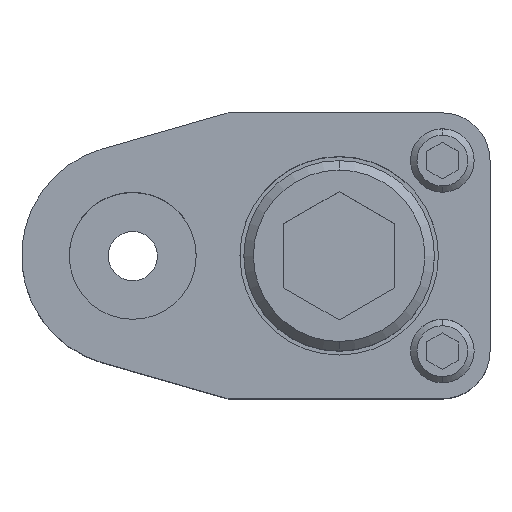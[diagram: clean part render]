
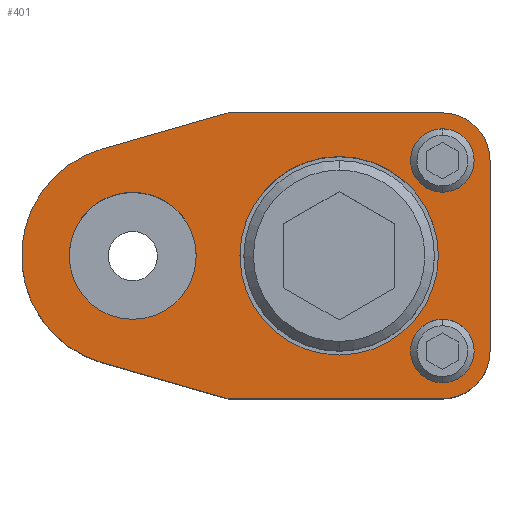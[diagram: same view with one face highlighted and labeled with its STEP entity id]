
A CAD part, top view. The second image highlights one B-rep face of the part: STEP entity #401.
In plain terms, the highlighted planar face has unit normal (0, 0, 1).
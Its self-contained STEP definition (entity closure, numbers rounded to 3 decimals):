
#191=FACE_BOUND('',#703,.T.);
#192=FACE_BOUND('',#704,.T.);
#193=FACE_BOUND('',#705,.T.);
#194=FACE_BOUND('',#706,.T.);
#195=FACE_BOUND('',#707,.T.);
#247=CIRCLE('',#2239,6.);
#249=CIRCLE('',#2244,14.);
#252=CIRCLE('',#2250,6.);
#254=CIRCLE('',#2253,4.);
#256=CIRCLE('',#2256,4.);
#258=CIRCLE('',#2259,4.);
#260=CIRCLE('',#2262,4.);
#265=CIRCLE('',#2270,12.5);
#266=CIRCLE('',#2271,12.5);
#267=CIRCLE('',#2272,8.);
#268=CIRCLE('',#2273,8.);
#401=ADVANCED_FACE('',(#191,#192,#193,#194,#195),#510,.T.);
#510=PLANE('',#2274);
#703=EDGE_LOOP('',(#999,#1000,#1001,#1002,#1003,#1004,#1005,#1006));
#704=EDGE_LOOP('',(#1007,#1008));
#705=EDGE_LOOP('',(#1009,#1010));
#706=EDGE_LOOP('',(#1011,#1012));
#707=EDGE_LOOP('',(#1013,#1014));
#999=ORIENTED_EDGE('',*,*,#1646,.T.);
#1000=ORIENTED_EDGE('',*,*,#1650,.T.);
#1001=ORIENTED_EDGE('',*,*,#1653,.T.);
#1002=ORIENTED_EDGE('',*,*,#1656,.T.);
#1003=ORIENTED_EDGE('',*,*,#1659,.T.);
#1004=ORIENTED_EDGE('',*,*,#1662,.T.);
#1005=ORIENTED_EDGE('',*,*,#1665,.T.);
#1006=ORIENTED_EDGE('',*,*,#1668,.T.);
#1007=ORIENTED_EDGE('',*,*,#1687,.F.);
#1008=ORIENTED_EDGE('',*,*,#1688,.F.);
#1009=ORIENTED_EDGE('',*,*,#1680,.F.);
#1010=ORIENTED_EDGE('',*,*,#1677,.F.);
#1011=ORIENTED_EDGE('',*,*,#1674,.F.);
#1012=ORIENTED_EDGE('',*,*,#1671,.F.);
#1013=ORIENTED_EDGE('',*,*,#1689,.T.);
#1014=ORIENTED_EDGE('',*,*,#1690,.T.);
#1436=VERTEX_POINT('',#3259);
#1437=VERTEX_POINT('',#3261);
#1440=VERTEX_POINT('',#3268);
#1442=VERTEX_POINT('',#3274);
#1444=VERTEX_POINT('',#3280);
#1446=VERTEX_POINT('',#3286);
#1448=VERTEX_POINT('',#3292);
#1450=VERTEX_POINT('',#3298);
#1453=VERTEX_POINT('',#3309);
#1454=VERTEX_POINT('',#3311);
#1457=VERTEX_POINT('',#3321);
#1458=VERTEX_POINT('',#3323);
#1463=VERTEX_POINT('',#3342);
#1464=VERTEX_POINT('',#3343);
#1465=VERTEX_POINT('',#3346);
#1466=VERTEX_POINT('',#3347);
#1646=EDGE_CURVE('',#1437,#1436,#1920,.T.);
#1650=EDGE_CURVE('',#1436,#1440,#247,.T.);
#1653=EDGE_CURVE('',#1440,#1442,#1925,.T.);
#1656=EDGE_CURVE('',#1442,#1444,#1928,.T.);
#1659=EDGE_CURVE('',#1444,#1446,#249,.T.);
#1662=EDGE_CURVE('',#1446,#1448,#1932,.T.);
#1665=EDGE_CURVE('',#1448,#1450,#1935,.T.);
#1668=EDGE_CURVE('',#1450,#1437,#252,.T.);
#1671=EDGE_CURVE('',#1453,#1454,#254,.T.);
#1674=EDGE_CURVE('',#1454,#1453,#256,.T.);
#1677=EDGE_CURVE('',#1457,#1458,#258,.T.);
#1680=EDGE_CURVE('',#1458,#1457,#260,.T.);
#1687=EDGE_CURVE('',#1463,#1464,#265,.T.);
#1688=EDGE_CURVE('',#1464,#1463,#266,.T.);
#1689=EDGE_CURVE('',#1465,#1466,#267,.T.);
#1690=EDGE_CURVE('',#1466,#1465,#268,.T.);
#1920=LINE('',#3260,#2080);
#1925=LINE('',#3275,#2085);
#1928=LINE('',#3281,#2088);
#1932=LINE('',#3293,#2092);
#1935=LINE('',#3299,#2095);
#2080=VECTOR('',#2591,1.);
#2085=VECTOR('',#2604,1.);
#2088=VECTOR('',#2609,1.);
#2092=VECTOR('',#2621,1.);
#2095=VECTOR('',#2626,1.);
#2239=AXIS2_PLACEMENT_3D('',#3269,#2597,#2598);
#2244=AXIS2_PLACEMENT_3D('',#3287,#2614,#2615);
#2250=AXIS2_PLACEMENT_3D('',#3303,#2632,#2633);
#2253=AXIS2_PLACEMENT_3D('',#3310,#2639,#2640);
#2256=AXIS2_PLACEMENT_3D('',#3315,#2646,#2647);
#2259=AXIS2_PLACEMENT_3D('',#3322,#2653,#2654);
#2262=AXIS2_PLACEMENT_3D('',#3327,#2660,#2661);
#2270=AXIS2_PLACEMENT_3D('',#3341,#2678,#2679);
#2271=AXIS2_PLACEMENT_3D('',#3344,#2680,#2681);
#2272=AXIS2_PLACEMENT_3D('',#3345,#2682,#2683);
#2273=AXIS2_PLACEMENT_3D('',#3348,#2684,#2685);
#2274=AXIS2_PLACEMENT_3D('',#3349,#2686,#2687);
#2591=DIRECTION('',(0.,1.,0.));
#2597=DIRECTION('',(0.,0.,1.));
#2598=DIRECTION('',(-0.707,-0.707,0.));
#2604=DIRECTION('',(-1.,0.,0.));
#2609=DIRECTION('',(-0.961,-0.275,0.));
#2614=DIRECTION('',(0.,0.,1.));
#2615=DIRECTION('',(0.,1.,0.));
#2621=DIRECTION('',(0.961,-0.275,0.));
#2626=DIRECTION('',(1.,0.,0.));
#2632=DIRECTION('',(0.,0.,1.));
#2633=DIRECTION('',(-0.707,0.707,0.));
#2639=DIRECTION('',(0.,0.,1.));
#2640=DIRECTION('',(1.,0.,0.));
#2646=DIRECTION('',(0.,0.,1.));
#2647=DIRECTION('',(-1.,0.,0.));
#2653=DIRECTION('',(0.,0.,1.));
#2654=DIRECTION('',(1.,0.,0.));
#2660=DIRECTION('',(0.,0.,1.));
#2661=DIRECTION('',(-1.,0.,0.));
#2678=DIRECTION('',(0.,0.,1.));
#2679=DIRECTION('',(1.,0.,0.));
#2680=DIRECTION('',(0.,0.,1.));
#2681=DIRECTION('',(-1.,0.,0.));
#2682=DIRECTION('',(0.,0.,-1.));
#2683=DIRECTION('',(-1.,0.,0.));
#2684=DIRECTION('',(0.,0.,-1.));
#2685=DIRECTION('',(1.,0.,0.));
#2686=DIRECTION('',(0.,0.,1.));
#2687=DIRECTION('',(0.,-1.,0.));
#3259=CARTESIAN_POINT('',(45.,12.,30.));
#3260=CARTESIAN_POINT('',(45.,-12.,30.));
#3261=CARTESIAN_POINT('',(45.,-12.,30.));
#3268=CARTESIAN_POINT('',(39.,18.,30.));
#3269=CARTESIAN_POINT('',(39.,12.,30.));
#3274=CARTESIAN_POINT('',(12.,18.,30.));
#3275=CARTESIAN_POINT('',(12.,18.,30.));
#3280=CARTESIAN_POINT('',(-3.855,13.459,30.));
#3281=CARTESIAN_POINT('',(12.,18.,30.));
#3286=CARTESIAN_POINT('',(-3.855,-13.459,30.));
#3287=CARTESIAN_POINT('',(0.,0.,30.));
#3292=CARTESIAN_POINT('',(12.,-18.,30.));
#3293=CARTESIAN_POINT('',(12.,-18.,30.));
#3298=CARTESIAN_POINT('',(39.,-18.,30.));
#3299=CARTESIAN_POINT('',(12.,-18.,30.));
#3303=CARTESIAN_POINT('',(39.,-12.,30.));
#3309=CARTESIAN_POINT('',(39.,16.,30.));
#3310=CARTESIAN_POINT('',(39.,12.,30.));
#3311=CARTESIAN_POINT('',(39.,8.,30.));
#3315=CARTESIAN_POINT('',(39.,12.,30.));
#3321=CARTESIAN_POINT('',(39.,-8.,30.));
#3322=CARTESIAN_POINT('',(39.,-12.,30.));
#3323=CARTESIAN_POINT('',(39.,-16.,30.));
#3327=CARTESIAN_POINT('',(39.,-12.,30.));
#3341=CARTESIAN_POINT('',(26.,0.,30.));
#3342=CARTESIAN_POINT('',(26.,12.5,30.));
#3343=CARTESIAN_POINT('',(26.,-12.5,30.));
#3344=CARTESIAN_POINT('',(26.,0.,30.));
#3345=CARTESIAN_POINT('',(0.,0.,30.));
#3346=CARTESIAN_POINT('',(0.,8.,30.));
#3347=CARTESIAN_POINT('',(0.,-8.,30.));
#3348=CARTESIAN_POINT('',(0.,0.,30.));
#3349=CARTESIAN_POINT('',(45.,-12.,30.));
